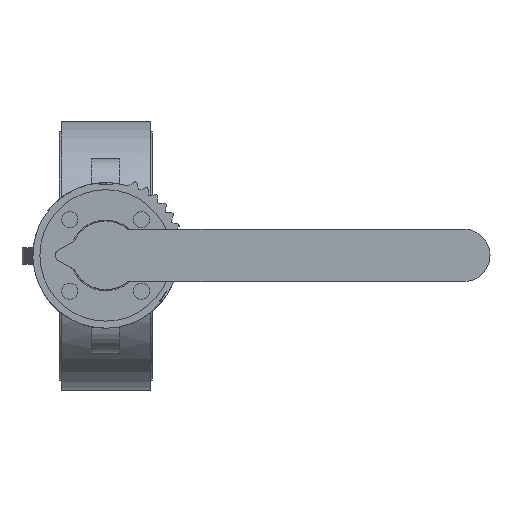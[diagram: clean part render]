
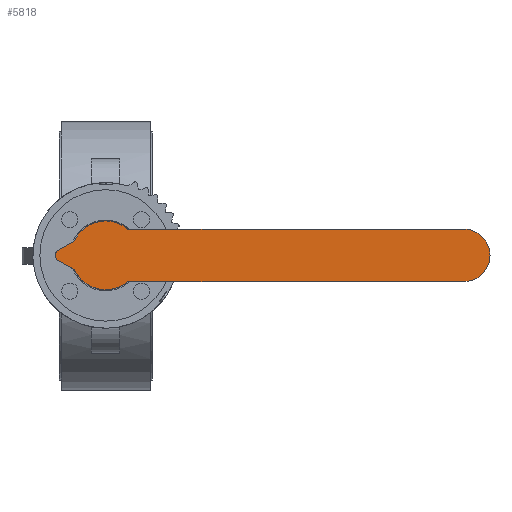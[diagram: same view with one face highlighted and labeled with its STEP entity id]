
A CAD part, top view. The second image highlights one B-rep face of the part: STEP entity #5818.
In plain terms, the highlighted planar face has unit normal (0, 0, 1).
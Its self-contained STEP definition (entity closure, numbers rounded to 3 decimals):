
#5818=ADVANCED_FACE('',(#11616),#11618,.T.);
#11616=FACE_BOUND('',#11617,.T.);
#11617=EDGE_LOOP('',(#16021,#16022,#16023,#16024,#16025,#16026,#16027,#16028,#16029,
#16030,#16031));
#11618=PLANE('',#11619);
#11619=AXIS2_PLACEMENT_3D('',#11620,#11621,#11622);
#11620=CARTESIAN_POINT('',(-1.545,-4.755,197.));
#11621=DIRECTION('',(0.,0.,1.));
#11622=DIRECTION('',(0.951,-0.309,0.));
#16021=ORIENTED_EDGE('',*,*,#18486,.F.);
#16022=ORIENTED_EDGE('',*,*,#18487,.T.);
#16023=ORIENTED_EDGE('',*,*,#18488,.T.);
#16024=ORIENTED_EDGE('',*,*,#18489,.T.);
#16025=ORIENTED_EDGE('',*,*,#18490,.T.);
#16026=ORIENTED_EDGE('',*,*,#18491,.T.);
#16027=ORIENTED_EDGE('',*,*,#18492,.T.);
#16028=ORIENTED_EDGE('',*,*,#18493,.T.);
#16029=ORIENTED_EDGE('',*,*,#18494,.T.);
#16030=ORIENTED_EDGE('',*,*,#18495,.T.);
#16031=ORIENTED_EDGE('',*,*,#18496,.T.);
#18486=EDGE_CURVE('',#21874,#21875,#21876,.F.);
#18487=EDGE_CURVE('',#21874,#21877,#21878,.T.);
#18488=EDGE_CURVE('',#21877,#21879,#21880,.T.);
#18489=EDGE_CURVE('',#21879,#21881,#21882,.T.);
#18490=EDGE_CURVE('',#21881,#21883,#21884,.T.);
#18491=EDGE_CURVE('',#21883,#21885,#21886,.T.);
#18492=EDGE_CURVE('',#21885,#21887,#21888,.T.);
#18493=EDGE_CURVE('',#21887,#21889,#21890,.T.);
#18494=EDGE_CURVE('',#21889,#21891,#21892,.T.);
#18495=EDGE_CURVE('',#21891,#21893,#21894,.T.);
#18496=EDGE_CURVE('',#21893,#21875,#21895,.T.);
#21874=VERTEX_POINT('',#31618);
#21875=VERTEX_POINT('',#31619);
#21876=CIRCLE('',#31620,13.);
#21877=VERTEX_POINT('',#31624);
#21878=LINE('',#31625,#31626);
#21879=VERTEX_POINT('',#31628);
#21880=CIRCLE('',#31629,17.);
#21881=VERTEX_POINT('',#31633);
#21882=CIRCLE('',#31634,17.);
#21883=VERTEX_POINT('',#31638);
#21884=CIRCLE('',#31639,3.);
#21885=VERTEX_POINT('',#31643);
#21886=LINE('',#31644,#31645);
#21887=VERTEX_POINT('',#31647);
#21888=CIRCLE('',#31648,3.);
#21889=VERTEX_POINT('',#31652);
#21890=LINE('',#31653,#31654);
#21891=VERTEX_POINT('',#31656);
#21892=CIRCLE('',#31657,3.);
#21893=VERTEX_POINT('',#31661);
#21894=CIRCLE('',#31662,17.);
#21895=LINE('',#31666,#31667);
#31618=CARTESIAN_POINT('',(177.,13.,197.));
#31619=CARTESIAN_POINT('',(177.,-13.,197.));
#31620=AXIS2_PLACEMENT_3D('',#31621,#31622,#31623);
#31621=CARTESIAN_POINT('',(177.,0.,197.));
#31622=DIRECTION('',(0.,0.,1.));
#31623=DIRECTION('',(0.,-1.,0.));
#31624=CARTESIAN_POINT('',(10.954,13.,197.));
#31625=CARTESIAN_POINT('',(177.,13.,197.));
#31626=VECTOR('',#31627,1.);
#31627=DIRECTION('',(-1.,0.,0.));
#31628=CARTESIAN_POINT('',(2.659,16.791,197.));
#31629=AXIS2_PLACEMENT_3D('',#31630,#31631,#31632);
#31630=CARTESIAN_POINT('',(0.,0.,197.));
#31631=DIRECTION('',(0.,0.,1.));
#31632=DIRECTION('',(0.644,0.765,0.));
#31633=CARTESIAN_POINT('',(-15.113,7.785,197.));
#31634=AXIS2_PLACEMENT_3D('',#31635,#31636,#31637);
#31635=CARTESIAN_POINT('',(0.,0.,197.));
#31636=DIRECTION('',(0.,0.,1.));
#31637=DIRECTION('',(0.156,0.988,0.));
#31638=CARTESIAN_POINT('',(-16.317,6.539,197.));
#31639=AXIS2_PLACEMENT_3D('',#31640,#31641,#31642);
#31640=CARTESIAN_POINT('',(-17.78,9.159,197.));
#31641=DIRECTION('',(0.,0.,-1.));
#31642=DIRECTION('',(0.889,-0.458,0.));
#31643=CARTESIAN_POINT('',(-23.338,2.619,197.));
#31644=CARTESIAN_POINT('',(-16.317,6.539,197.));
#31645=VECTOR('',#31646,1.);
#31646=DIRECTION('',(-0.873,-0.487,0.));
#31647=CARTESIAN_POINT('',(-23.338,-2.619,197.));
#31648=AXIS2_PLACEMENT_3D('',#31649,#31650,#31651);
#31649=CARTESIAN_POINT('',(-21.876,0.,197.));
#31650=DIRECTION('',(0.,0.,1.));
#31651=DIRECTION('',(-0.487,0.873,0.));
#31652=CARTESIAN_POINT('',(-16.317,-6.539,197.));
#31653=CARTESIAN_POINT('',(-23.338,-2.619,197.));
#31654=VECTOR('',#31655,1.);
#31655=DIRECTION('',(0.873,-0.487,0.));
#31656=CARTESIAN_POINT('',(-15.113,-7.785,197.));
#31657=AXIS2_PLACEMENT_3D('',#31658,#31659,#31660);
#31658=CARTESIAN_POINT('',(-17.78,-9.159,197.));
#31659=DIRECTION('',(0.,0.,-1.));
#31660=DIRECTION('',(0.487,0.873,0.));
#31661=CARTESIAN_POINT('',(10.954,-13.,197.));
#31662=AXIS2_PLACEMENT_3D('',#31663,#31664,#31665);
#31663=CARTESIAN_POINT('',(0.,0.,197.));
#31664=DIRECTION('',(0.,0.,1.));
#31665=DIRECTION('',(-0.889,-0.458,0.));
#31666=CARTESIAN_POINT('',(10.954,-13.,197.));
#31667=VECTOR('',#31668,1.);
#31668=DIRECTION('',(1.,0.,0.));
